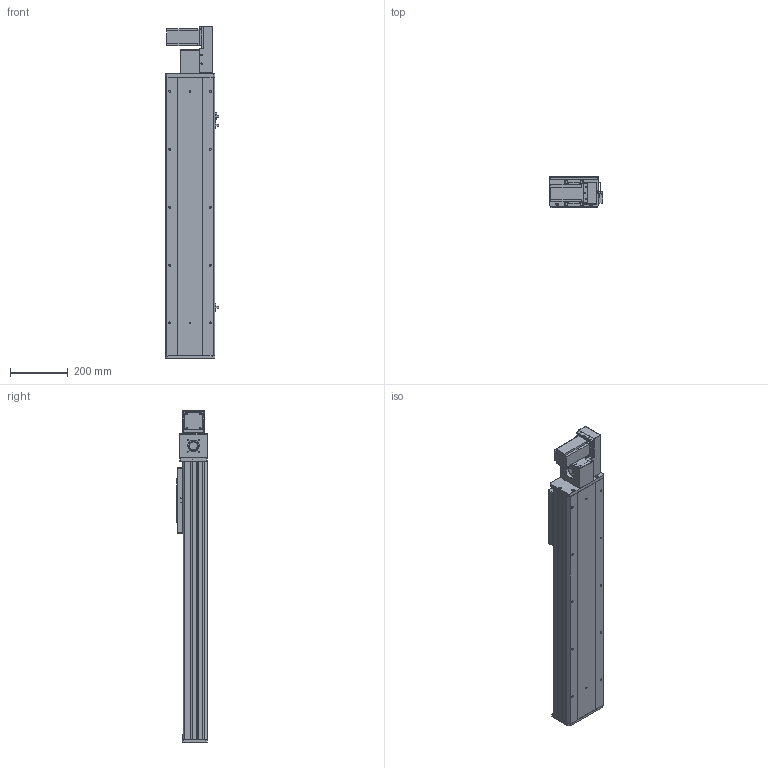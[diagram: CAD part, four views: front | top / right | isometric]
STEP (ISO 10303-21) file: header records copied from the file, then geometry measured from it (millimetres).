
FILE_DESCRIPTION (( 'STEP AP203' ), '1' );
FILE_NAME ('Y170CB-D105-S650-BR-P400W.STEP', '2020-02-19T08:48:27', ( '微软用户' ), ( '微软中国' ), 'SwSTEP 2.0', 'SolidWorks 2017', '' );
FILE_SCHEMA (( 'CONFIG_CONTROL_DESIGN' ));
Length unit declared in the file: millimetre
Products named in the file (17): 70B喘謫眊----; B-源倛裔啣; 17B-耜蚾蟀諉啣----; 0B-萇儂楊擘啣; san松下电机400不带刹车----; Y70俋欶BR----; 70CB-掛极-; --70CB --喘謫眊楊擘啣-; 70CB-耜裔啣-; 70C--詩湍揤踡え-; 70CB--耜裔; 70C-雄赽釱-奻-; 0C--雄赽釱俋欶-170; 70CB-詩湍--; Y100-135俋离換覜ん--; Y170CB-陔俋离換覜結え---; Y170CB-D105-S650-BR-P400W
Assembly tree (20 placements, depth 2):
  Y170CB-D105-S650-BR-P400W
    70B喘謫眊----
    B-源倛裔啣
    17B-耜蚾蟀諉啣----
    0B-萇儂楊擘啣
    san松下电机400不带刹车----
    Y70俋欶BR----
    70CB-掛极-
    --70CB --喘謫眊楊擘啣-
    70CB-耜裔啣-  x2
    70C--詩湍揤踡え-  x2
    70CB--耜裔
    70C-雄赽釱-奻-
    0C--雄赽釱俋欶-170
    70CB-詩湍--
    Y100-135俋离換覜ん--  x3
    Y170CB-陔俋离換覜結え---
Bounding box: 183.5 x 107 x 1147 mm (x, y, z)
Volume: 5154653.9 mm3; surface area: 1831806.7 mm2
Topology: 20 solids, 20 shells, 977 faces, 2609 edges, 1730 vertices
Faces by surface type: cylinder 491, plane 462, cone 24
Entity records: 30875 total; most frequent: CARTESIAN_POINT 5661, DIRECTION 5020, ORIENTED_EDGE 4700, EDGE_CURVE 2350, AXIS2_PLACEMENT_3D 1825, VERTEX_POINT 1560, LINE 1370, VECTOR 1370
